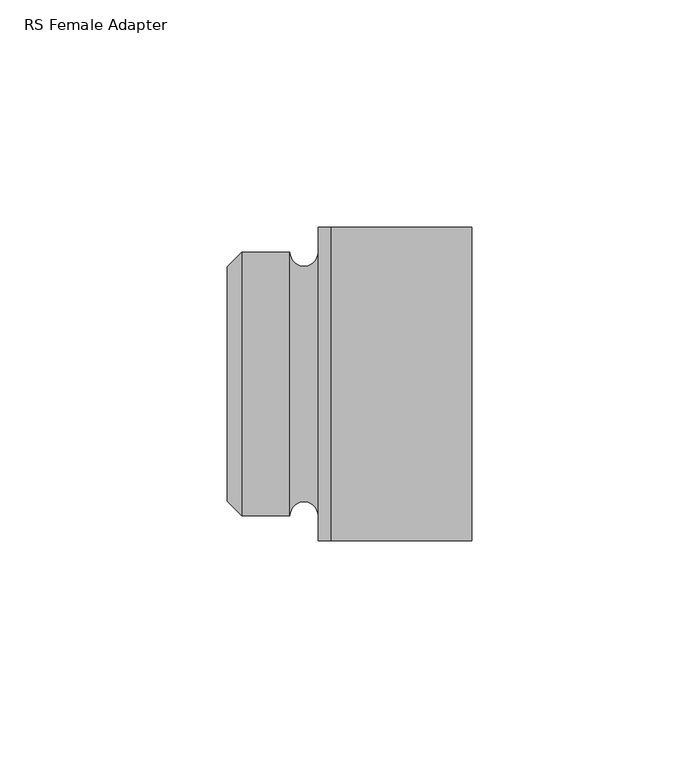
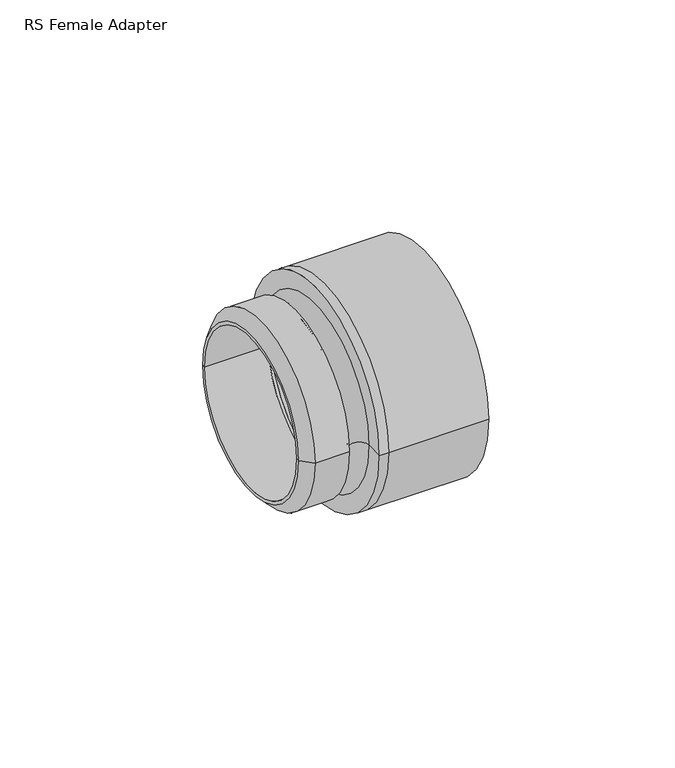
"""IFC4 building model written with IfcOpenShell, lengths in millimetres: pipe fitting geometry, RS Female Adapter : Superpipe RS2 FT Adapter 2”."""

from ifc_helpers import new_model, si_unit, point, frame, origin, place, context, project, spatial, polyline, circle_curve, ellipse_curve, trimmed, source, transform, mapped, element, save
from ifc_brep_helpers import plane_surface, cylinder_surface, revolved_surface, advanced_brep


def rs_female_adapter_9108f48d(model_context):
    return source(origin(), model_context, "Body", "AdvancedBrep", [
        advanced_brep(
        [(20.0, -34.5, 0.0), (20.0, 34.5, 0.0), (22.8, 34.5, 0.0), (22.8, -34.5, 0.0), (20.0, -29.0, 0.0), (20.0, 29.0, 0.0), (22.8, 29.0, 0.0), (22.8, -29.0, 0.0), (0.0, -25.8, 0.0), (0.0, 25.8, 0.0), (3.2, 29.0, 0.0), (3.2, -29.0, 0.0), (0.0, -24.8, 0.0), (0.0, 24.8, 0.0), (13.8, -29.0, 0.0), (13.8, 29.0, 0.0), (20.0, -24.8, 0.0), (20.0, 24.8, 0.0)],
        [
            (0, 1, circle_curve(frame((20.0, 0.0, 0.0), z_axis=(1.0, 0.0, 0.0), x_axis=(0.0, 1.0, 0.0)), 34.5)),
            (1, 2),
            (2, 3, circle_curve(frame((22.8, 0.0, 0.0), z_axis=(-1.0, 0.0, 0.0), x_axis=(0.0, 1.0, 0.0)), 34.5)),
            (3, 0),
            (1, 0, circle_curve(frame((20.0, 0.0, 0.0), z_axis=(1.0, 0.0, 0.0), x_axis=(0.0, 1.0, 0.0)), 34.5)),
            (3, 2, circle_curve(frame((22.8, 0.0, 0.0), z_axis=(-1.0, 0.0, 0.0), x_axis=(0.0, 1.0, 0.0)), 34.5)),
            (0, 4),
            (4, 5, circle_curve(frame((20.0, 0.0, 0.0), z_axis=(1.0, 0.0, 0.0), x_axis=(0.0, 1.0, 0.0)), 29.0)),
            (5, 1),
            (5, 4, circle_curve(frame((20.0, 0.0, 0.0), z_axis=(1.0, 0.0, 0.0), x_axis=(0.0, 1.0, 0.0)), 29.0)),
            (2, 6),
            (6, 7, circle_curve(frame((22.8, 0.0, 0.0), z_axis=(-1.0, 0.0, 0.0), x_axis=(0.0, 1.0, 0.0)), 29.0)),
            (7, 3),
            (7, 6, circle_curve(frame((22.8, 0.0, 0.0), z_axis=(-1.0, 0.0, 0.0), x_axis=(0.0, 1.0, 0.0)), 29.0)),
            (8, 9, circle_curve(frame((0.0, 0.0, 0.0), z_axis=(1.0, 0.0, 0.0), x_axis=(0.0, 1.0, 0.0)), 25.8)),
            (9, 10),
            (10, 11, circle_curve(frame((3.2, 0.0, 0.0), z_axis=(-1.0, 0.0, 0.0), x_axis=(0.0, 1.0, 0.0)), 29.0)),
            (11, 8),
            (9, 8, circle_curve(frame((0.0, 0.0, 0.0), z_axis=(1.0, 0.0, 0.0), x_axis=(0.0, 1.0, 0.0)), 25.8)),
            (11, 10, circle_curve(frame((3.2, 0.0, 0.0), z_axis=(-1.0, 0.0, 0.0), x_axis=(0.0, 1.0, 0.0)), 29.0)),
            (8, 12),
            (12, 13, circle_curve(frame((0.0, 0.0, 0.0), z_axis=(1.0, 0.0, 0.0), x_axis=(0.0, 1.0, 0.0)), 24.8)),
            (13, 9),
            (13, 12, circle_curve(frame((0.0, 0.0, 0.0), z_axis=(1.0, 0.0, 0.0), x_axis=(0.0, 1.0, 0.0)), 24.8)),
            (4, 14, circle_curve(frame((16.9, -29.0, 0.0), z_axis=(0.0, 0.0, 1.0), x_axis=(1.0, 0.0, 0.0)), 3.1)),
            (14, 15, circle_curve(frame((13.8, 0.0, 0.0), z_axis=(1.0, 0.0, 0.0), x_axis=(0.0, 1.0, 0.0)), 29.0)),
            (15, 5, circle_curve(frame((16.9, 29.0, 0.0), z_axis=(0.0, 0.0, 1.0), x_axis=(1.0, 0.0, 0.0)), 3.1)),
            (15, 14, circle_curve(frame((13.8, 0.0, 0.0), z_axis=(1.0, 0.0, 0.0), x_axis=(0.0, 1.0, 0.0)), 29.0)),
            (10, 15),
            (14, 11),
            (12, 16),
            (16, 17, circle_curve(frame((20.0, 0.0, 0.0), z_axis=(1.0, 0.0, 0.0), x_axis=(0.0, 1.0, 0.0)), 24.8)),
            (17, 13),
            (17, 16, circle_curve(frame((20.0, 0.0, 0.0), z_axis=(1.0, 0.0, 0.0), x_axis=(0.0, 1.0, 0.0)), 24.8)),
            (16, 7),
            (6, 17),
        ],
        [
            cylinder_surface(frame((1973.8, 0.0, 0.0), z_axis=(-1.0, 0.0, 0.0), x_axis=(0.0, 1.0, 0.0)), 34.5),
            plane_surface(frame((20.0, 0.0, 0.0), z_axis=(-1.0, 0.0, 0.0), x_axis=(0.0, 1.0, 0.0))),
            plane_surface(frame((22.8, 0.0, 0.0), z_axis=(1.0, 0.0, 0.0), x_axis=(0.0, 1.0, 0.0))),
            revolved_surface(polyline([(3.2, 29.0, 0.0), (0.0, 25.8, 0.0)]), (1973.8, 0.0, 0.0), (-1.0, 0.0, 0.0)),
            plane_surface(frame((0.0, 0.0, 0.0), z_axis=(-1.0, 0.0, 0.0), x_axis=(0.0, 1.0, 0.0))),
            revolved_surface(trimmed(ellipse_curve(frame((16.9, 29.0, 0.0), z_axis=(0.0, 0.0, -1.0), x_axis=(1.0, 0.0, 0.0)), 3.1, 3.1), [point((20.0, 29.0, 0.0))], [point((13.8, 29.0, 0.0))], True, "CARTESIAN"), (1973.8, 0.0, 0.0), (-1.0, 0.0, 0.0)),
            cylinder_surface(frame((1973.8, 0.0, 0.0), z_axis=(-1.0, 0.0, 0.0), x_axis=(0.0, 1.0, 0.0)), 29.0),
            revolved_surface(polyline([(0.0, 24.8, 0.0), (20.0, 24.8, 0.0)]), (2000.0, 0.0, 0.0), (-1.0, 0.0, 0.0)),
            revolved_surface(polyline([(20.0, 24.8, 0.0), (22.8, 29.0, 0.0)]), (2000.0, 0.0, 0.0), (-1.0, 0.0, 0.0)),
        ],
        [
            (0, [[1, 2, 3, 4]]),
            (0, [[-2, 5, -4, 6]]),
            (1, [[-1, 7, 8, 9]]),
            (1, [[-5, -9, 10, -7]]),
            (2, [[-3, 11, 12, 13]]),
            (2, [[-6, -13, 14, -11]]),
            (3, [[15, 16, 17, 18]]),
            (3, [[-16, 19, -18, 20]]),
            (4, [[-15, 21, 22, 23]]),
            (4, [[-19, -23, 24, -21]]),
            (5, [[-8, 25, 26, 27]]),
            (5, [[-10, -27, 28, -25]]),
            (6, [[-17, 29, -26, 30]]),
            (6, [[-20, -30, -28, -29]]),
            (7, [[31, 32, 33, -22]]),
            (7, [[-31, -24, -33, 34]]),
            (8, [[-32, 35, -12, 36]]),
            (8, [[-34, -36, -14, -35]]),
        ],
    ),
        advanced_brep(
        [(53.8, -34.5, 0.0), (53.8, 34.5, 0.0), (53.8, 29.0, 0.0), (53.8, -29.0, 0.0), (22.8, 29.0, 0.0), (22.8, -29.0, 0.0), (22.8, 34.5, 0.0), (22.8, -34.5, 0.0)],
        [
            (0, 1, circle_curve(frame((53.8, 0.0, 0.0), z_axis=(1.0, 0.0, 0.0), x_axis=(0.0, 1.0, 0.0)), 34.5)),
            (1, 2),
            (2, 3, circle_curve(frame((53.8, 0.0, 0.0), z_axis=(-1.0, 0.0, 0.0), x_axis=(0.0, 1.0, 0.0)), 29.0)),
            (3, 0),
            (2, 4),
            (4, 5, circle_curve(frame((22.8, 0.0, 0.0), z_axis=(-1.0, 0.0, 0.0), x_axis=(0.0, 1.0, 0.0)), 29.0)),
            (5, 3),
            (4, 6),
            (6, 7, circle_curve(frame((22.8, 0.0, 0.0), z_axis=(-1.0, 0.0, 0.0), x_axis=(0.0, 1.0, 0.0)), 34.5)),
            (7, 5),
            (6, 1),
            (0, 7),
            (6, 7, circle_curve(frame((22.8, 0.0, 0.0), z_axis=(1.0, 0.0, 0.0), x_axis=(0.0, 1.0, 0.0)), 34.5)),
            (0, 1, circle_curve(frame((53.8, 0.0, 0.0), z_axis=(-1.0, 0.0, 0.0), x_axis=(0.0, 1.0, 0.0)), 34.5)),
            (4, 5, circle_curve(frame((22.8, 0.0, 0.0), z_axis=(1.0, 0.0, 0.0), x_axis=(0.0, 1.0, 0.0)), 29.0)),
            (2, 3, circle_curve(frame((53.8, 0.0, 0.0), z_axis=(1.0, 0.0, 0.0), x_axis=(0.0, 1.0, 0.0)), 29.0)),
        ],
        [
            plane_surface(frame((53.8, 0.0, 0.0), z_axis=(1.0, 0.0, 0.0), x_axis=(0.0, 1.0, 0.0))),
            revolved_surface(polyline([(22.799999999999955, 29.0, 0.0), (53.799999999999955, 29.0, 0.0)]), (2009.0, 0.0, 0.0), (-1.0, 0.0, 0.0)),
            plane_surface(frame((22.8, 0.0, 0.0), z_axis=(-1.0, 0.0, 0.0), x_axis=(0.0, 1.0, 0.0))),
            cylinder_surface(frame((2009.0, 0.0, 0.0), z_axis=(-1.0, 0.0, 0.0), x_axis=(0.0, 1.0, 0.0)), 34.5),
        ],
        [
            (0, [[1, 2, 3, 4]]),
            (1, [[-3, 5, 6, 7]]),
            (2, [[-6, 8, 9, 10]]),
            (3, [[-9, 11, -1, 12]]),
            (3, [[13, -12, 14, -11]]),
            (2, [[15, -10, -13, -8]]),
            (1, [[16, -7, -15, -5]]),
            (0, [[-14, -4, -16, -2]]),
        ],
    ),
    ])


if __name__ == "__main__":
    model = new_model("IFC4")
    model_context = context("Model", 3, world=origin())
    ifc_project = project(units=[si_unit("LENGTHUNIT", "METRE", prefix="MILLI")], contexts=[model_context])
    site = spatial("IfcSite", under=ifc_project)
    building = spatial("IfcBuilding", under=site)
    placement = place(None, origin())
    rs_female_adapter_shape = rs_female_adapter_9108f48d(model_context)
    element("IfcPipeFitting", 1, ObjectType="RS Female Adapter : Superpipe RS2 FT Adapter 2”", at=placement, inside=building, context=model_context, shape_type="MappedRepresentation", body=[
        mapped(rs_female_adapter_shape, transform((0.0, 0.0, 0.0), x_axis=(1.0, 0.0, 0.0), y_axis=(0.0, 1.0, 0.0), z_axis=(0.0, 0.0, 1.0))),
    ])
    save(model, "model.ifc")
